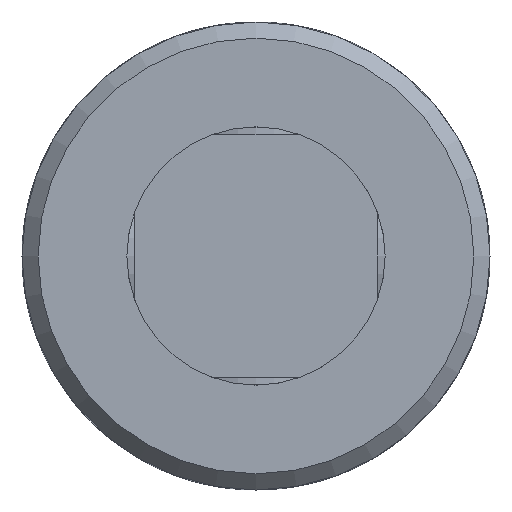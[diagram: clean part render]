
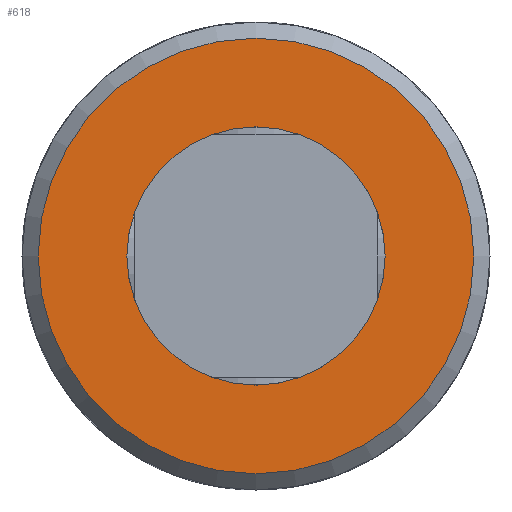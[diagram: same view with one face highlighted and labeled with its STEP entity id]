
A CAD part, front view. The second image highlights one B-rep face of the part: STEP entity #618.
In plain terms, the highlighted planar face has unit normal (0, -1, 0).
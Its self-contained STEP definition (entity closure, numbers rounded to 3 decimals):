
#122=PLANE('',#673);
#147=FACE_BOUND('',#226,.T.);
#172=FACE_OUTER_BOUND('',#225,.T.);
#225=EDGE_LOOP('',(#489));
#226=EDGE_LOOP('',(#490));
#268=CIRCLE('',#671,27.);
#269=CIRCLE('',#674,16.);
#305=VERTEX_POINT('',#952);
#322=VERTEX_POINT('',#1162);
#371=EDGE_CURVE('',#305,#305,#268,.T.);
#388=EDGE_CURVE('',#322,#322,#269,.T.);
#489=ORIENTED_EDGE('',*,*,#371,.F.);
#490=ORIENTED_EDGE('',*,*,#388,.T.);
#618=ADVANCED_FACE('',(#172,#147),#122,.F.);
#671=AXIS2_PLACEMENT_3D('',#953,#785,#786);
#673=AXIS2_PLACEMENT_3D('',#1161,#793,#794);
#674=AXIS2_PLACEMENT_3D('',#1163,#795,#796);
#785=DIRECTION('center_axis',(0.,1.,0.));
#786=DIRECTION('ref_axis',(1.,0.,0.));
#793=DIRECTION('center_axis',(0.,1.,0.));
#794=DIRECTION('ref_axis',(0.,0.,1.));
#795=DIRECTION('center_axis',(0.,1.,0.));
#796=DIRECTION('ref_axis',(-1.,0.,0.));
#952=CARTESIAN_POINT('',(-27.,-79.5,0.));
#953=CARTESIAN_POINT('Origin',(0.,-79.5,0.));
#1161=CARTESIAN_POINT('Origin',(0.,-79.5,0.));
#1162=CARTESIAN_POINT('',(16.,-79.5,0.));
#1163=CARTESIAN_POINT('Origin',(0.,-79.5,0.));
